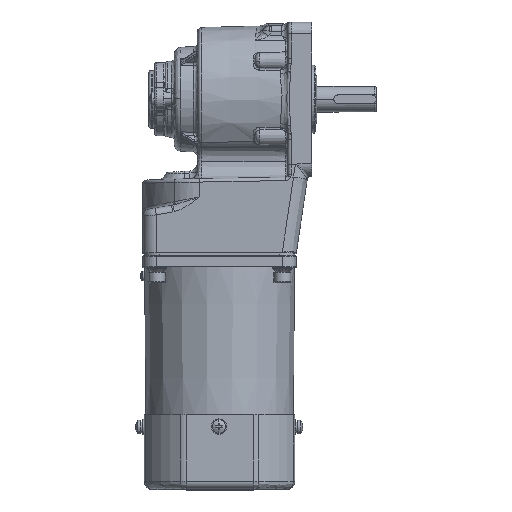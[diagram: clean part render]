
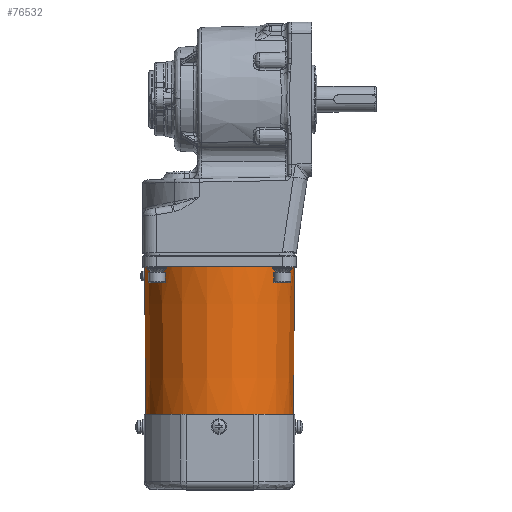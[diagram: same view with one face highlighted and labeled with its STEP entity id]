
A CAD part, top view. The second image highlights one B-rep face of the part: STEP entity #76532.
In plain terms, the highlighted conical face has half-angle 0.503 degrees and reference radius 44 mm.
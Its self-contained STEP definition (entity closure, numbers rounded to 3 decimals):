
#39 = DIRECTION ( 'NONE',  ( 0., 0., -1. ) ) ;
#934 = AXIS2_PLACEMENT_3D ( 'NONE', #83670, #42754, #39 ) ;
#5622 = CARTESIAN_POINT ( 'NONE',  ( -46.043, -10.259, 217.045 ) ) ;
#7302 = EDGE_CURVE ( 'NONE', #36549, #24920, #60617, .T. ) ;
#7963 = VECTOR ( 'NONE', #63838, 1000. ) ;
#9713 = CIRCLE ( 'NONE', #934, 43.236 ) ;
#11387 = VERTEX_POINT ( 'NONE', #84313 ) ;
#16071 = ORIENTED_EDGE ( 'NONE', *, *, #46787, .T. ) ;
#19419 = CARTESIAN_POINT ( 'NONE',  ( 40.957, -10.259, 173.808 ) ) ;
#24920 = VERTEX_POINT ( 'NONE', #80779 ) ;
#25256 = ORIENTED_EDGE ( 'NONE', *, *, #45845, .T. ) ;
#26713 = DIRECTION ( 'NONE',  ( 0., 0., -1. ) ) ;
#28639 = CARTESIAN_POINT ( 'NONE',  ( 40.957, -10.259, 129.808 ) ) ;
#36549 = VERTEX_POINT ( 'NONE', #65739 ) ;
#42754 = DIRECTION ( 'NONE',  ( 1., 0., 0. ) ) ;
#44301 = EDGE_LOOP ( 'NONE', ( #82689, #25256, #89182, #16071, #73407 ) ) ;
#45845 = EDGE_CURVE ( 'NONE', #36549, #75281, #9713, .T. ) ;
#46787 = EDGE_CURVE ( 'NONE', #11387, #85138, #54277, .T. ) ;
#47032 = AXIS2_PLACEMENT_3D ( 'NONE', #85406, #65493, #78838 ) ;
#47363 = EDGE_CURVE ( 'NONE', #85138, #24920, #49752, .T. ) ;
#47937 = VECTOR ( 'NONE', #75709, 1000. ) ;
#48204 = DIRECTION ( 'NONE',  ( 1., 0., 0.009 ) ) ;
#48687 = CARTESIAN_POINT ( 'NONE',  ( 40.957, -10.259, 217.808 ) ) ;
#49752 = LINE ( 'NONE', #5622, #47937 ) ;
#54277 = CIRCLE ( 'NONE', #83030, 44. ) ;
#55409 = EDGE_CURVE ( 'NONE', #75281, #11387, #83313, .T. ) ;
#58329 = CARTESIAN_POINT ( 'NONE',  ( -46.043, -10.259, 130.572 ) ) ;
#60617 = LINE ( 'NONE', #48687, #67829 ) ;
#62432 = FACE_OUTER_BOUND ( 'NONE', #44301, .T. ) ;
#63838 = DIRECTION ( 'NONE',  ( 1., 0., -0.009 ) ) ;
#64190 = CONICAL_SURFACE ( 'NONE', #47032, 44., 0.009 ) ;
#65493 = DIRECTION ( 'NONE',  ( 1., 0., 0. ) ) ;
#65739 = CARTESIAN_POINT ( 'NONE',  ( -46.043, -10.259, 217.045 ) ) ;
#67829 = VECTOR ( 'NONE', #48204, 1000. ) ;
#68833 = DIRECTION ( 'NONE',  ( -1., 0., 0. ) ) ;
#73407 = ORIENTED_EDGE ( 'NONE', *, *, #47363, .T. ) ;
#75281 = VERTEX_POINT ( 'NONE', #58329 ) ;
#75709 = DIRECTION ( 'NONE',  ( -1., 0., -0.009 ) ) ;
#76532 = ADVANCED_FACE ( 'NONE', ( #62432 ), #64190, .T. ) ;
#78838 = DIRECTION ( 'NONE',  ( 0., 0., -1. ) ) ;
#79158 = CARTESIAN_POINT ( 'NONE',  ( 40.957, -10.259, 217.808 ) ) ;
#80779 = CARTESIAN_POINT ( 'NONE',  ( 30.957, -10.259, 217.721 ) ) ;
#82689 = ORIENTED_EDGE ( 'NONE', *, *, #7302, .F. ) ;
#83030 = AXIS2_PLACEMENT_3D ( 'NONE', #19419, #68833, #26713 ) ;
#83313 = LINE ( 'NONE', #28639, #7963 ) ;
#83670 = CARTESIAN_POINT ( 'NONE',  ( -46.043, -10.259, 173.808 ) ) ;
#84313 = CARTESIAN_POINT ( 'NONE',  ( 40.957, -10.259, 129.808 ) ) ;
#85138 = VERTEX_POINT ( 'NONE', #79158 ) ;
#85406 = CARTESIAN_POINT ( 'NONE',  ( 40.957, -10.259, 173.808 ) ) ;
#89182 = ORIENTED_EDGE ( 'NONE', *, *, #55409, .T. ) ;
